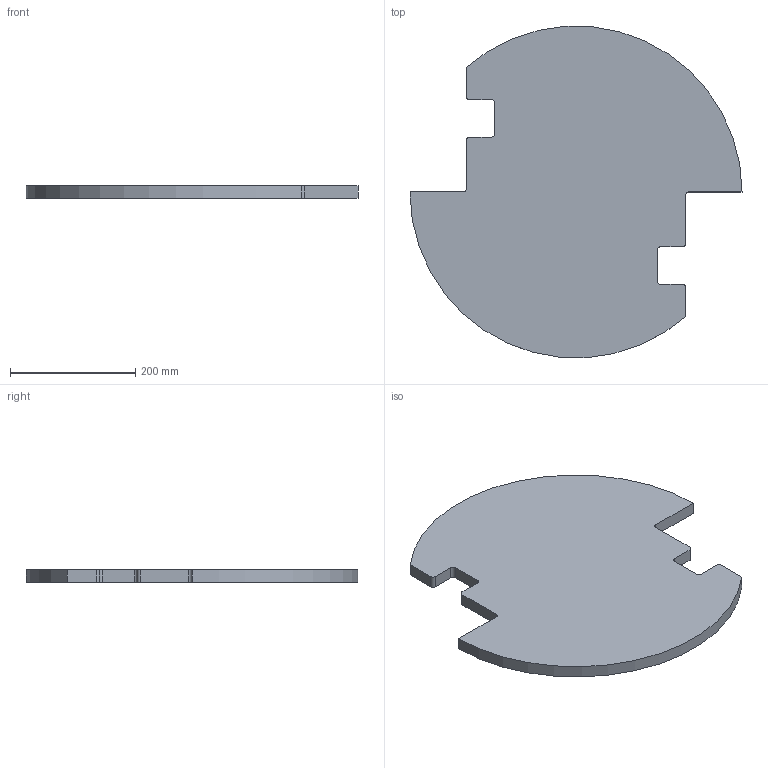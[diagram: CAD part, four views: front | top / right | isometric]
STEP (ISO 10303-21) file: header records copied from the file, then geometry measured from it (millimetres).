
FILE_DESCRIPTION (( 'STEP AP203' ), '1' );
FILE_NAME ('YWSD-2026-03-01-01-01=002 唅蛌狟啣.STEP', '2026-07-24T07:29:02', ( 'Windows 蚚誧' ), ( '' ), 'SwSTEP 2.0', 'SolidWorks 2024', '' );
FILE_SCHEMA (( 'CONFIG_CONTROL_DESIGN' ));
Length unit declared in the file: millimetre
Products named in the file (1): YWSD-2026-03-01-01-01=002 旋转下板
Bounding box: 530 x 528.83 x 20 mm (x, y, z)
Volume: 3807984.8 mm3; surface area: 419825.6 mm2
Topology: 1 solids, 1 shells, 26 faces, 72 edges, 48 vertices
Faces by surface type: plane 14, cylinder 12
Entity records: 917 total; most frequent: DIRECTION 150, CARTESIAN_POINT 147, ORIENTED_EDGE 144, EDGE_CURVE 72, AXIS2_PLACEMENT_3D 51, LINE 48, VERTEX_POINT 48, VECTOR 48
